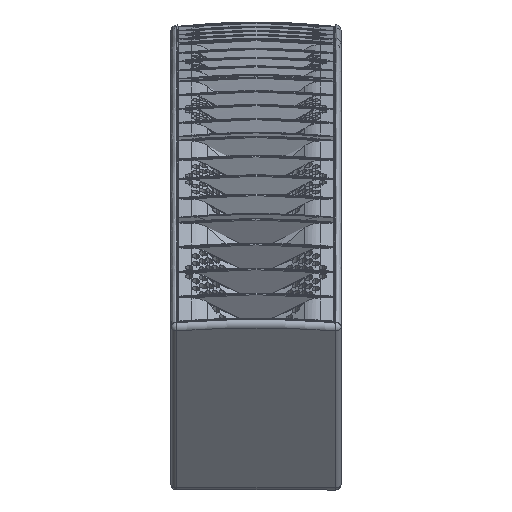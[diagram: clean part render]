
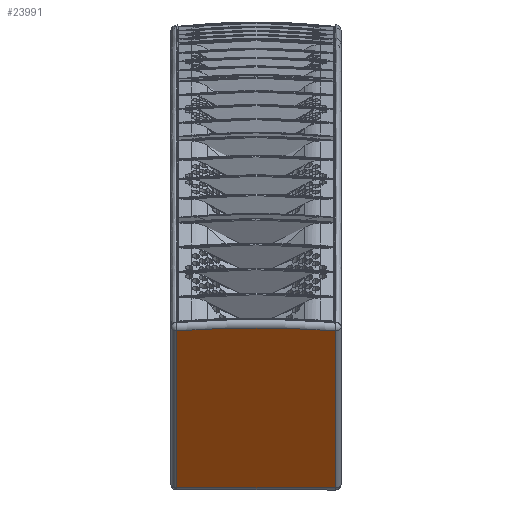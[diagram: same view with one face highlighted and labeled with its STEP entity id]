
A CAD part, front view. The second image highlights one B-rep face of the part: STEP entity #23991.
In plain terms, the highlighted planar face has unit normal (0, -0.766, -0.643) as drawn and (0, 0, 1) by its records, which use the part's own axes.
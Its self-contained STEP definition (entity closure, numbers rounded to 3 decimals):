
#7783 = FACE_OUTER_BOUND ( 'NONE', #24925, .T. ) ;
#9740 = PLANE ( 'NONE',  #30639 ) ;
#9741 = CARTESIAN_POINT ( 'NONE',  ( 99., -167.919, 1057.654 ) ) ;
#9742 = DIRECTION ( 'NONE',  ( 0., 0., 1. ) ) ;
#9743 = DIRECTION ( 'NONE',  ( 1., 0., 0. ) ) ;
#14900 = AXIS2_PLACEMENT_3D ( 'NONE', #18276, #18277, #18278 ) ;
#17387 = LINE ( 'NONE', #18249, #17388 ) ;
#17388 = VECTOR ( 'NONE', #18250, 1000. ) ;
#17403 = LINE ( 'NONE', #18269, #17404 ) ;
#17404 = VECTOR ( 'NONE', #18270, 1000. ) ;
#17408 = CIRCLE ( 'NONE', #14900, 889.025 ) ;
#17411 = LINE ( 'NONE', #18292, #17413 ) ;
#17413 = VECTOR ( 'NONE', #18293, 1000. ) ;
#18249 = CARTESIAN_POINT ( 'NONE',  ( -1.5, -167.919, 1057.654 ) ) ;
#18250 = DIRECTION ( 'NONE',  ( 0., -1., 0. ) ) ;
#18269 = CARTESIAN_POINT ( 'NONE',  ( 99., -104.419, 1057.654 ) ) ;
#18270 = DIRECTION ( 'NONE',  ( -1., 0., 0. ) ) ;
#18276 = CARTESIAN_POINT ( 'NONE',  ( 86.5, 552.606, 1057.654 ) ) ;
#18277 = DIRECTION ( 'NONE',  ( 0., 0., 1. ) ) ;
#18278 = DIRECTION ( 'NONE',  ( 1., 0., 0. ) ) ;
#18292 = CARTESIAN_POINT ( 'NONE',  ( 174.5, -167.919, 1057.654 ) ) ;
#18293 = DIRECTION ( 'NONE',  ( 0., 1., 0. ) ) ;
#20370 = CARTESIAN_POINT ( 'NONE',  ( 174.5, -104.419, 1057.654 ) ) ;
#20371 = CARTESIAN_POINT ( 'NONE',  ( -1.5, -104.419, 1057.654 ) ) ;
#20372 = CARTESIAN_POINT ( 'NONE',  ( -1.5, -332.053, 1057.654 ) ) ;
#20373 = CARTESIAN_POINT ( 'NONE',  ( 174.5, -332.053, 1057.654 ) ) ;
#23991 = ADVANCED_FACE ( 'NONE', ( #7783 ), #9740, .T. ) ;
#24925 = EDGE_LOOP ( 'NONE', ( #25706, #25707, #25708, #25709 ) ) ;
#25706 = ORIENTED_EDGE ( 'NONE', *, *, #26563, .T. ) ;
#25707 = ORIENTED_EDGE ( 'NONE', *, *, #26554, .T. ) ;
#25708 = ORIENTED_EDGE ( 'NONE', *, *, #26566, .T. ) ;
#25709 = ORIENTED_EDGE ( 'NONE', *, *, #26571, .T. ) ;
#26554 = EDGE_CURVE ( 'NONE', #27491, #27492, #17387, .T. ) ;
#26563 = EDGE_CURVE ( 'NONE', #27490, #27491, #17403, .T. ) ;
#26566 = EDGE_CURVE ( 'NONE', #27492, #27493, #17408, .T. ) ;
#26571 = EDGE_CURVE ( 'NONE', #27493, #27490, #17411, .T. ) ;
#27490 = VERTEX_POINT ( 'NONE', #20370 ) ;
#27491 = VERTEX_POINT ( 'NONE', #20371 ) ;
#27492 = VERTEX_POINT ( 'NONE', #20372 ) ;
#27493 = VERTEX_POINT ( 'NONE', #20373 ) ;
#30639 = AXIS2_PLACEMENT_3D ( 'NONE', #9741, #9742, #9743 ) ;
